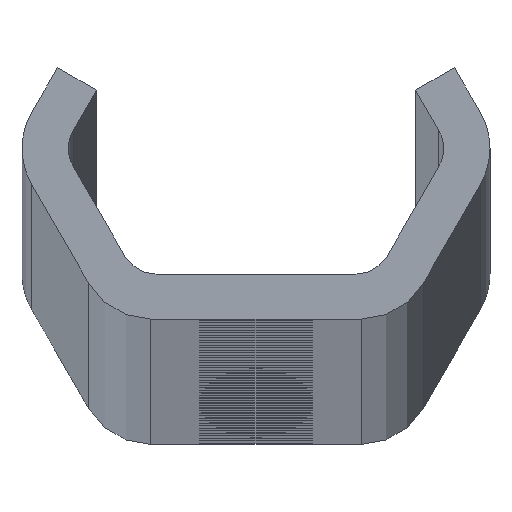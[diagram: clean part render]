
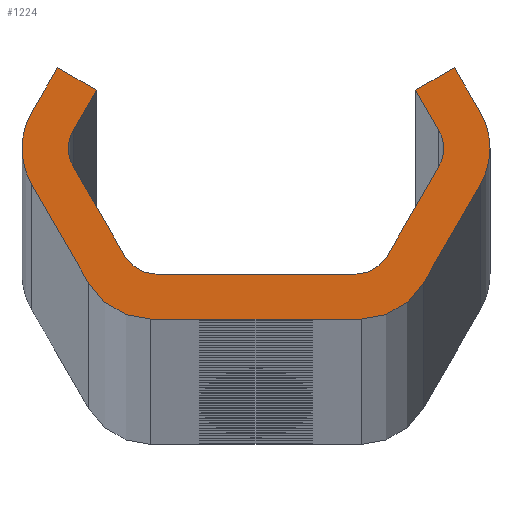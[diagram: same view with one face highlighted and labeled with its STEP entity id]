
A CAD part, top view. The second image highlights one B-rep face of the part: STEP entity #1224.
In plain terms, the highlighted planar face has unit normal (0, 0, 1).
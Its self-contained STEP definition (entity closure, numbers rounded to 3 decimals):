
#1224=ADVANCED_FACE('NONE',(#3320),#3321,.F.);
#3320=FACE_OUTER_BOUND('',#10644,.T.);
#3321=PLANE('',#10645);
#10644=EDGE_LOOP('',(#21726,#21727,#21728,#21729,#21730,#21731,#21732,#21733,#21734,#21735,#21736,#21737,#21738,#21739,#21740,#21741,#21742,#21743,#21744,#21745,#21746,#21747,#21748,#21749));
#10645=AXIS2_PLACEMENT_3D('',#21750,#21751,#21752);
#21726=ORIENTED_EDGE('',*,*,#28569,.T.);
#21727=ORIENTED_EDGE('',*,*,#28586,.T.);
#21728=ORIENTED_EDGE('',*,*,#28571,.T.);
#21729=ORIENTED_EDGE('',*,*,#28587,.T.);
#21730=ORIENTED_EDGE('',*,*,#28580,.F.);
#21731=ORIENTED_EDGE('',*,*,#28588,.T.);
#21732=ORIENTED_EDGE('',*,*,#27383,.T.);
#21733=ORIENTED_EDGE('',*,*,#28583,.F.);
#21734=ORIENTED_EDGE('',*,*,#28051,.F.);
#21735=ORIENTED_EDGE('',*,*,#28055,.F.);
#21736=ORIENTED_EDGE('',*,*,#27657,.T.);
#21737=ORIENTED_EDGE('',*,*,#28589,.T.);
#21738=ORIENTED_EDGE('',*,*,#28059,.F.);
#21739=ORIENTED_EDGE('',*,*,#28590,.T.);
#21740=ORIENTED_EDGE('',*,*,#28064,.F.);
#21741=ORIENTED_EDGE('',*,*,#28591,.T.);
#21742=ORIENTED_EDGE('',*,*,#28552,.T.);
#21743=ORIENTED_EDGE('',*,*,#28592,.T.);
#21744=ORIENTED_EDGE('',*,*,#27378,.T.);
#21745=ORIENTED_EDGE('',*,*,#28555,.T.);
#21746=ORIENTED_EDGE('',*,*,#28561,.T.);
#21747=ORIENTED_EDGE('',*,*,#28565,.T.);
#21748=ORIENTED_EDGE('',*,*,#28593,.T.);
#21749=ORIENTED_EDGE('',*,*,#27660,.T.);
#21750=CARTESIAN_POINT('',(0.0,0.0,4000.0));
#21751=DIRECTION('',(0.0,0.0,-1.0));
#21752=DIRECTION('',(0.0,-1.0,0.0));
#27378=EDGE_CURVE('NONE',#30488,#30492,#30494,.T.);
#27383=EDGE_CURVE('NONE',#30497,#30501,#30503,.T.);
#27657=EDGE_CURVE('NONE',#30996,#30994,#30997,.T.);
#27660=EDGE_CURVE('NONE',#31000,#31001,#31002,.T.);
#28051=EDGE_CURVE('NONE',#31588,#31590,#31591,.T.);
#28055=EDGE_CURVE('NONE',#30996,#31588,#31595,.T.);
#28059=EDGE_CURVE('NONE',#31600,#31602,#31603,.T.);
#28064=EDGE_CURVE('NONE',#31609,#31611,#31612,.T.);
#28552=EDGE_CURVE('NONE',#32558,#32556,#32559,.T.);
#28555=EDGE_CURVE('NONE',#30492,#32562,#32563,.T.);
#28561=EDGE_CURVE('NONE',#32562,#32570,#32572,.T.);
#28565=EDGE_CURVE('NONE',#32570,#32576,#32578,.T.);
#28569=EDGE_CURVE('NONE',#31001,#32582,#32584,.T.);
#28571=EDGE_CURVE('NONE',#32586,#32587,#32588,.T.);
#28580=EDGE_CURVE('NONE',#32600,#32602,#32603,.T.);
#28583=EDGE_CURVE('NONE',#31590,#30501,#32606,.T.);
#28586=EDGE_CURVE('NONE',#32582,#32586,#32609,.T.);
#28587=EDGE_CURVE('NONE',#32587,#32602,#32610,.T.);
#28588=EDGE_CURVE('NONE',#32600,#30497,#32611,.T.);
#28589=EDGE_CURVE('NONE',#30994,#31602,#32612,.T.);
#28590=EDGE_CURVE('NONE',#31600,#31611,#32613,.T.);
#28591=EDGE_CURVE('NONE',#31609,#32558,#32614,.T.);
#28592=EDGE_CURVE('NONE',#32556,#30488,#32615,.T.);
#28593=EDGE_CURVE('NONE',#32576,#31000,#32616,.T.);
#30488=VERTEX_POINT('',#35096);
#30492=VERTEX_POINT('NONE',#35101);
#30494=CIRCLE('',#35104,2.0);
#30497=VERTEX_POINT('',#35107);
#30501=VERTEX_POINT('NONE',#35112);
#30503=CIRCLE('',#35115,4.0);
#30994=VERTEX_POINT('NONE',#40160);
#30996=VERTEX_POINT('NONE',#40163);
#30997=CIRCLE('',#40164,2.0);
#31000=VERTEX_POINT('NONE',#40168);
#31001=VERTEX_POINT('NONE',#40169);
#31002=CIRCLE('',#40170,4.0);
#31588=VERTEX_POINT('NONE',#40855);
#31590=VERTEX_POINT('NONE',#40858);
#31591=LINE('',#40859,#40860);
#31595=LINE('',#40866,#40867);
#31600=VERTEX_POINT('NONE',#40873);
#31602=VERTEX_POINT('NONE',#40876);
#31603=LINE('',#40877,#40878);
#31609=VERTEX_POINT('NONE',#40886);
#31611=VERTEX_POINT('NONE',#40889);
#31612=LINE('',#40890,#40891);
#32556=VERTEX_POINT('NONE',#44437);
#32558=VERTEX_POINT('NONE',#44440);
#32559=LINE('',#44441,#44442);
#32562=VERTEX_POINT('NONE',#44446);
#32563=LINE('',#44447,#44448);
#32570=VERTEX_POINT('NONE',#44458);
#32572=LINE('',#44461,#44462);
#32576=VERTEX_POINT('NONE',#44467);
#32578=LINE('',#44470,#44471);
#32582=VERTEX_POINT('NONE',#44476);
#32584=LINE('',#44479,#44480);
#32586=VERTEX_POINT('NONE',#44482);
#32587=VERTEX_POINT('NONE',#44483);
#32588=LINE('',#44484,#44485);
#32600=VERTEX_POINT('NONE',#44501);
#32602=VERTEX_POINT('NONE',#44504);
#32603=LINE('',#44505,#44506);
#32606=LINE('',#44510,#44511);
#32609=CIRCLE('',#44515,4.0);
#32610=CIRCLE('',#44516,4.0);
#32611=CIRCLE('',#44517,4.0);
#32612=CIRCLE('',#44518,2.0);
#32613=CIRCLE('',#44519,2.0);
#32614=CIRCLE('',#44520,2.0);
#32615=CIRCLE('',#44521,2.0);
#32616=CIRCLE('',#44522,4.0);
#35096=CARTESIAN_POINT('',(-10.455,0.,4000.0));
#35101=CARTESIAN_POINT('',(-10.187,1.,4000.0));
#35104=AXIS2_PLACEMENT_3D('',#52855,#52856,#52857);
#35107=CARTESIAN_POINT('',(13.032,0.,4000.0));
#35112=CARTESIAN_POINT('',(12.496,2.0,4000.0));
#35115=AXIS2_PLACEMENT_3D('',#52863,#52864,#52865);
#40160=CARTESIAN_POINT('',(10.455,0.,4000.0));
#40163=CARTESIAN_POINT('',(10.187,1.,4000.0));
#40164=AXIS2_PLACEMENT_3D('',#52990,#52991,#52992);
#40168=CARTESIAN_POINT('',(-13.032,0.,4000.0));
#40169=CARTESIAN_POINT('',(-12.496,-2.,4000.0));
#40170=AXIS2_PLACEMENT_3D('',#52994,#52995,#52996);
#40855=CARTESIAN_POINT('',(8.888,3.25,4000.0));
#40858=CARTESIAN_POINT('',(11.053,4.5,4000.0));
#40859=CARTESIAN_POINT('',(8.888,3.25,4000.0));
#40860=VECTOR('',#53676,1000.0);
#40866=CARTESIAN_POINT('',(10.764,0.,4000.0));
#40867=VECTOR('',#53679,1000.0);
#40873=CARTESIAN_POINT('',(7.3,-6.,4000.0));
#40876=CARTESIAN_POINT('',(10.187,-1.,4000.0));
#40877=CARTESIAN_POINT('',(6.723,-7.0,4000.0));
#40878=VECTOR('',#53682,1000.0);
#40886=CARTESIAN_POINT('',(-5.568,-7.0,4000.0));
#40889=CARTESIAN_POINT('',(5.568,-7.0,4000.0));
#40890=CARTESIAN_POINT('',(-6.723,-7.0,4000.0));
#40891=VECTOR('',#53686,1000.0);
#44437=CARTESIAN_POINT('',(-10.187,-1.,4000.0));
#44440=CARTESIAN_POINT('',(-7.3,-6.,4000.0));
#44441=CARTESIAN_POINT('',(-6.723,-7.0,4000.0));
#44442=VECTOR('',#54125,1000.0);
#44446=CARTESIAN_POINT('',(-8.888,3.25,4000.0));
#44447=CARTESIAN_POINT('',(-10.764,0.0,4000.0));
#44448=VECTOR('',#54127,1000.0);
#44458=CARTESIAN_POINT('',(-11.053,4.5,4000.0));
#44461=CARTESIAN_POINT('',(-8.888,3.25,4000.0));
#44462=VECTOR('',#54132,1000.0);
#44467=CARTESIAN_POINT('',(-12.496,2.0,4000.0));
#44470=CARTESIAN_POINT('',(-11.053,4.5,4000.0));
#44471=VECTOR('',#54135,1000.0);
#44476=CARTESIAN_POINT('',(-9.321,-7.5,4000.0));
#44479=CARTESIAN_POINT('',(-13.651,0.0,4000.0));
#44480=VECTOR('',#54138,1000.0);
#44482=CARTESIAN_POINT('',(-5.857,-9.5,4000.0));
#44483=CARTESIAN_POINT('',(5.857,-9.5,4000.0));
#44484=CARTESIAN_POINT('',(-8.166,-9.5,4000.0));
#44485=VECTOR('',#54139,1000.0);
#44501=CARTESIAN_POINT('',(12.496,-2.,4000.0));
#44504=CARTESIAN_POINT('',(9.321,-7.5,4000.0));
#44505=CARTESIAN_POINT('',(13.651,0.,4000.0));
#44506=VECTOR('',#54151,1000.0);
#44510=CARTESIAN_POINT('',(11.053,4.5,4000.0));
#44511=VECTOR('',#54153,1000.0);
#44515=AXIS2_PLACEMENT_3D('',#54155,#54156,#54157);
#44516=AXIS2_PLACEMENT_3D('',#54158,#54159,#54160);
#44517=AXIS2_PLACEMENT_3D('',#54161,#54162,#54163);
#44518=AXIS2_PLACEMENT_3D('',#54164,#54165,#54166);
#44519=AXIS2_PLACEMENT_3D('',#54167,#54168,#54169);
#44520=AXIS2_PLACEMENT_3D('',#54170,#54171,#54172);
#44521=AXIS2_PLACEMENT_3D('',#54173,#54174,#54175);
#44522=AXIS2_PLACEMENT_3D('',#54176,#54177,#54178);
#52855=CARTESIAN_POINT('',(-8.455,0.,4000.0));
#52856=DIRECTION('',(0.0,0.0,-1.0));
#52857=DIRECTION('',(-1.0,0.0,0.0));
#52863=CARTESIAN_POINT('',(9.032,0.,4000.0));
#52864=DIRECTION('',(0.0,0.0,1.0));
#52865=DIRECTION('',(-1.0,0.,0.0));
#52990=CARTESIAN_POINT('',(8.455,0.,4000.0));
#52991=DIRECTION('',(0.0,0.0,-1.0));
#52992=DIRECTION('',(-1.0,0.0,0.0));
#52994=CARTESIAN_POINT('',(-9.032,0.,4000.0));
#52995=DIRECTION('',(0.0,0.0,1.0));
#52996=DIRECTION('',(-1.0,0.0,0.0));
#53676=DIRECTION('',(0.866,0.5,0.0));
#53679=DIRECTION('',(-0.5,0.866,0.0));
#53682=DIRECTION('',(0.5,0.866,0.0));
#53686=DIRECTION('',(1.0,0.,0.0));
#54125=DIRECTION('',(-0.5,0.866,0.0));
#54127=DIRECTION('',(0.5,0.866,0.0));
#54132=DIRECTION('',(-0.866,0.5,0.0));
#54135=DIRECTION('',(-0.5,-0.866,0.0));
#54138=DIRECTION('',(0.5,-0.866,0.0));
#54139=DIRECTION('',(1.0,0.,0.0));
#54151=DIRECTION('',(-0.5,-0.866,0.0));
#54153=DIRECTION('',(0.5,-0.866,0.0));
#54155=CARTESIAN_POINT('',(-5.857,-5.5,4000.0));
#54156=DIRECTION('',(0.0,0.0,1.0));
#54157=DIRECTION('',(-1.0,0.0,0.0));
#54158=CARTESIAN_POINT('',(5.857,-5.5,4000.0));
#54159=DIRECTION('',(0.0,0.0,1.0));
#54160=DIRECTION('',(-1.0,0.0,0.0));
#54161=CARTESIAN_POINT('',(9.032,0.,4000.0));
#54162=DIRECTION('',(0.0,0.0,1.0));
#54163=DIRECTION('',(-1.0,0.,0.0));
#54164=CARTESIAN_POINT('',(8.455,0.,4000.0));
#54165=DIRECTION('',(0.0,0.0,-1.0));
#54166=DIRECTION('',(-1.0,0.0,0.0));
#54167=CARTESIAN_POINT('',(5.568,-5.0,4000.0));
#54168=DIRECTION('',(0.0,0.0,-1.0));
#54169=DIRECTION('',(-1.0,0.0,0.0));
#54170=CARTESIAN_POINT('',(-5.568,-5.0,4000.0));
#54171=DIRECTION('',(0.0,0.0,-1.0));
#54172=DIRECTION('',(-1.0,0.0,0.0));
#54173=CARTESIAN_POINT('',(-8.455,0.,4000.0));
#54174=DIRECTION('',(0.0,0.0,-1.0));
#54175=DIRECTION('',(-1.0,0.0,0.0));
#54176=CARTESIAN_POINT('',(-9.032,0.,4000.0));
#54177=DIRECTION('',(0.0,0.0,1.0));
#54178=DIRECTION('',(-1.0,0.,0.0));
